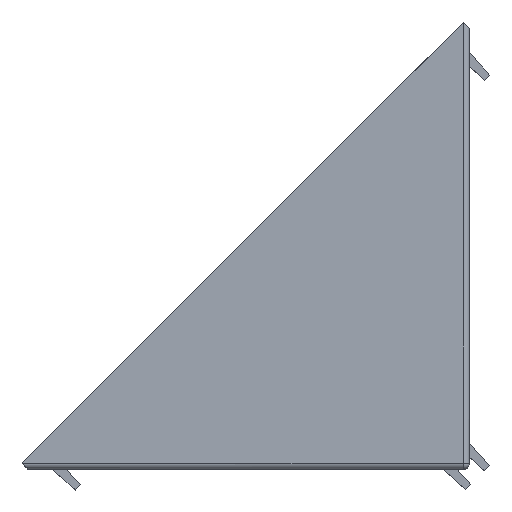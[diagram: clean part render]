
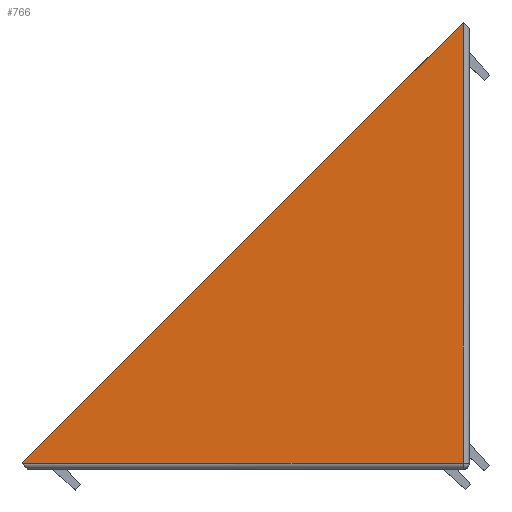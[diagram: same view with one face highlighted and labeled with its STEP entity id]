
A CAD part, top view. The second image highlights one B-rep face of the part: STEP entity #766.
In plain terms, the highlighted planar face has unit normal (0, 0, 1).
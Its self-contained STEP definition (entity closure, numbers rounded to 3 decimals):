
#766=ADVANCED_FACE('NONE',(#1687),#1688,.F.);
#1687=FACE_OUTER_BOUND('',#2921,.T.);
#1688=PLANE('',#2922);
#2921=EDGE_LOOP('',(#5228,#5229,#5230,#5231,#5232));
#2922=AXIS2_PLACEMENT_3D('',#5233,#5234,#5235);
#5228=ORIENTED_EDGE('',*,*,#7354,.T.);
#5229=ORIENTED_EDGE('',*,*,#7434,.T.);
#5230=ORIENTED_EDGE('',*,*,#7397,.T.);
#5231=ORIENTED_EDGE('',*,*,#7435,.T.);
#5232=ORIENTED_EDGE('',*,*,#7356,.T.);
#5233=CARTESIAN_POINT('',(0.,-74.953,38.0));
#5234=DIRECTION('',(0.0,0.0,-1.0));
#5235=DIRECTION('',(0.0,-1.0,0.0));
#7354=EDGE_CURVE('NONE',#8990,#8592,#8992,.T.);
#7356=EDGE_CURVE('NONE',#8994,#8990,#8995,.T.);
#7397=EDGE_CURVE('NONE',#9046,#9047,#9048,.T.);
#7434=EDGE_CURVE('NONE',#8592,#9046,#9090,.T.);
#7435=EDGE_CURVE('NONE',#9047,#8994,#9091,.T.);
#8592=VERTEX_POINT('NONE',#11142);
#8990=VERTEX_POINT('NONE',#11784);
#8992=LINE('',#11796,#11797);
#8994=VERTEX_POINT('NONE',#11799);
#8995=LINE('',#11800,#11801);
#9046=VERTEX_POINT('NONE',#11912);
#9047=VERTEX_POINT('NONE',#11913);
#9048=LINE('',#11914,#11915);
#9090=LINE('',#12011,#12012);
#9091=LINE('',#12013,#12014);
#11142=CARTESIAN_POINT('',(-1.,-73.953,38.0));
#11784=CARTESIAN_POINT('',(-75.953,-73.953,38.0));
#11796=CARTESIAN_POINT('',(0.,-73.953,38.0));
#11797=VECTOR('',#13588,1000.0);
#11799=CARTESIAN_POINT('',(-76.0,-73.907,38.0));
#11800=CARTESIAN_POINT('',(-74.953,-74.953,38.0));
#11801=VECTOR('',#13589,1000.0);
#11912=CARTESIAN_POINT('',(-1.0,1.,38.0));
#11913=CARTESIAN_POINT('',(-1.047,1.047,38.0));
#11914=CARTESIAN_POINT('',(0.0,0.0,38.0));
#11915=VECTOR('',#13622,1000.0);
#12011=CARTESIAN_POINT('',(-1.,-74.953,38.0));
#12012=VECTOR('',#13652,1000.0);
#12013=CARTESIAN_POINT('',(-1.047,1.047,38.0));
#12014=VECTOR('',#13653,1000.0);
#13588=DIRECTION('',(1.0,0.,0.0));
#13589=DIRECTION('',(0.707,-0.707,-0.0));
#13622=DIRECTION('',(-0.707,0.707,0.0));
#13652=DIRECTION('',(0.,1.0,0.0));
#13653=DIRECTION('',(-0.707,-0.707,0.0));
